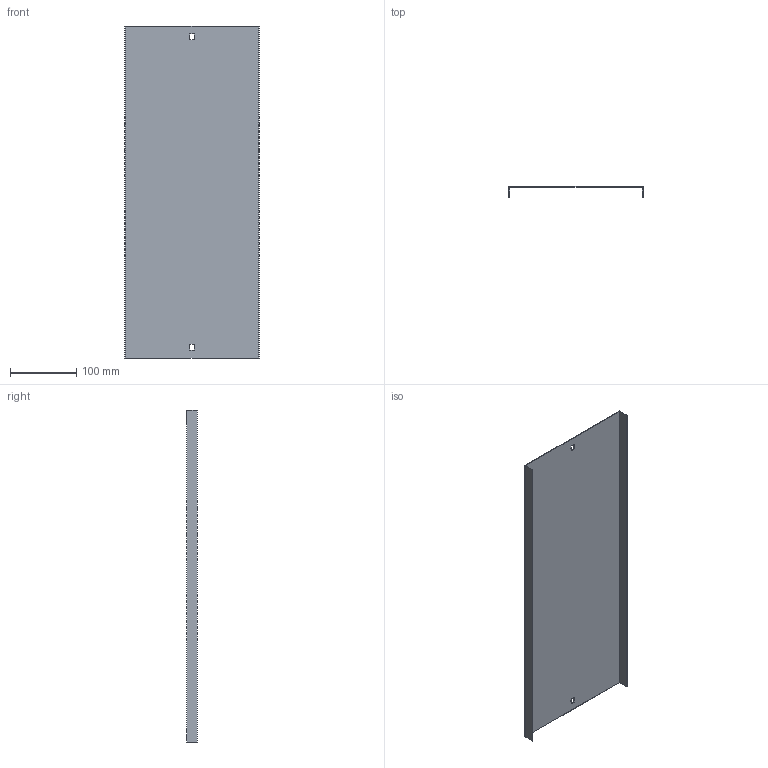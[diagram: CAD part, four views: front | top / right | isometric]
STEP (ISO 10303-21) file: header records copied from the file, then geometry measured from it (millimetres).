
FILE_DESCRIPTION (( 'STEP AP214' ), '1' );
FILE_NAME ('05G7R200.step', '2025-02-21T13:08:25', ( '' ), ( '' ), 'SwSTEP 2.0', 'SolidWorks 2023', '' );
FILE_SCHEMA (( 'AUTOMOTIVE_DESIGN' ));
Length unit declared in the file: millimetre
Products named in the file (1): 05G7R200
Bounding box: 202 x 16.5 x 500 mm (x, y, z)
Volume: 116383 mm3; surface area: 234294 mm2
Topology: 1 solids, 1 shells, 18 faces, 48 edges, 32 vertices
Faces by surface type: plane 18
Entity records: 583 total; most frequent: CARTESIAN_POINT 99, ORIENTED_EDGE 96, DIRECTION 86, LINE 48, VECTOR 48, EDGE_CURVE 48, VERTEX_POINT 32, EDGE_LOOP 22
